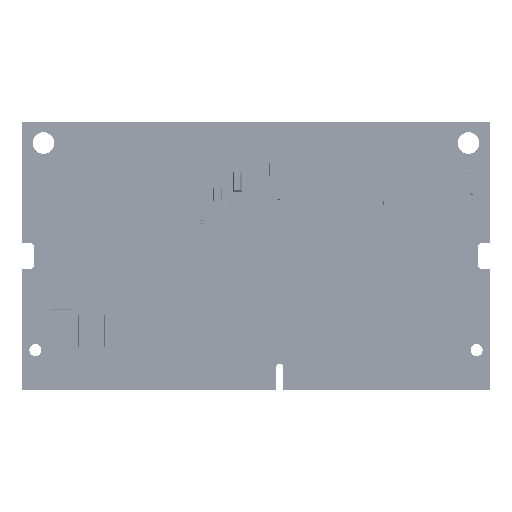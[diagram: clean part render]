
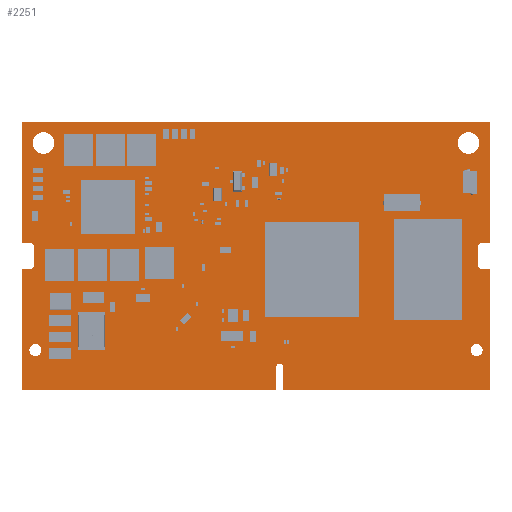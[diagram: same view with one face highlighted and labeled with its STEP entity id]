
A CAD part, top view. The second image highlights one B-rep face of the part: STEP entity #2251.
In plain terms, the highlighted planar face has unit normal (0, 0, 1).
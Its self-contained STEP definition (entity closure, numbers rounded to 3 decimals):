
#1328 = VERTEX_POINT('',#1329);
#1329 = CARTESIAN_POINT('',(69.6,40.,1.141));
#1335 = EDGE_CURVE('',#1328,#1336,#1338,.T.);
#1336 = VERTEX_POINT('',#1337);
#1337 = CARTESIAN_POINT('',(69.6,22.,1.141));
#1338 = LINE('',#1339,#1340);
#1339 = CARTESIAN_POINT('',(69.6,40.,1.141));
#1340 = VECTOR('',#1341,1.);
#1341 = DIRECTION('',(0.,-1.,0.));
#1366 = EDGE_CURVE('',#1336,#1367,#1369,.T.);
#1367 = VERTEX_POINT('',#1368);
#1368 = CARTESIAN_POINT('',(68.5,22.,1.141));
#1369 = LINE('',#1370,#1371);
#1370 = CARTESIAN_POINT('',(69.6,22.,1.141));
#1371 = VECTOR('',#1372,1.);
#1372 = DIRECTION('',(-1.,0.,0.));
#1397 = EDGE_CURVE('',#1367,#1398,#1400,.T.);
#1398 = VERTEX_POINT('',#1399);
#1399 = CARTESIAN_POINT('',(67.85,21.35,1.141));
#1400 = CIRCLE('',#1401,0.649);
#1401 = AXIS2_PLACEMENT_3D('',#1402,#1403,#1404);
#1402 = CARTESIAN_POINT('',(68.499,21.351,1.141));
#1403 = DIRECTION('',(0.,0.,1.));
#1404 = DIRECTION('',(0.002,1.,-0.));
#1430 = EDGE_CURVE('',#1398,#1431,#1433,.T.);
#1431 = VERTEX_POINT('',#1432);
#1432 = CARTESIAN_POINT('',(67.85,18.65,1.141));
#1433 = LINE('',#1434,#1435);
#1434 = CARTESIAN_POINT('',(67.85,21.35,1.141));
#1435 = VECTOR('',#1436,1.);
#1436 = DIRECTION('',(0.,-1.,0.));
#1461 = EDGE_CURVE('',#1431,#1462,#1464,.T.);
#1462 = VERTEX_POINT('',#1463);
#1463 = CARTESIAN_POINT('',(68.5,18.,1.141));
#1464 = CIRCLE('',#1465,0.649);
#1465 = AXIS2_PLACEMENT_3D('',#1466,#1467,#1468);
#1466 = CARTESIAN_POINT('',(68.499,18.649,1.141));
#1467 = DIRECTION('',(0.,0.,1.));
#1468 = DIRECTION('',(-1.,0.002,0.));
#1494 = EDGE_CURVE('',#1462,#1495,#1497,.T.);
#1495 = VERTEX_POINT('',#1496);
#1496 = CARTESIAN_POINT('',(69.6,18.,1.141));
#1497 = LINE('',#1498,#1499);
#1498 = CARTESIAN_POINT('',(68.5,18.,1.141));
#1499 = VECTOR('',#1500,1.);
#1500 = DIRECTION('',(1.,0.,0.));
#1525 = EDGE_CURVE('',#1495,#1526,#1528,.T.);
#1526 = VERTEX_POINT('',#1527);
#1527 = CARTESIAN_POINT('',(69.6,0.186,1.141));
#1528 = LINE('',#1529,#1530);
#1529 = CARTESIAN_POINT('',(69.6,18.,1.141));
#1530 = VECTOR('',#1531,1.);
#1531 = DIRECTION('',(0.,-1.,0.));
#1556 = EDGE_CURVE('',#1526,#1557,#1559,.T.);
#1557 = VERTEX_POINT('',#1558);
#1558 = CARTESIAN_POINT('',(69.414,0.,1.141));
#1559 = LINE('',#1560,#1561);
#1560 = CARTESIAN_POINT('',(69.6,0.186,1.141));
#1561 = VECTOR('',#1562,1.);
#1562 = DIRECTION('',(-0.707,-0.707,0.));
#1587 = EDGE_CURVE('',#1557,#1588,#1590,.T.);
#1588 = VERTEX_POINT('',#1589);
#1589 = CARTESIAN_POINT('',(38.986,0.,1.141));
#1590 = LINE('',#1591,#1592);
#1591 = CARTESIAN_POINT('',(69.414,0.,1.141));
#1592 = VECTOR('',#1593,1.);
#1593 = DIRECTION('',(-1.,0.,0.));
#1618 = EDGE_CURVE('',#1588,#1619,#1621,.T.);
#1619 = VERTEX_POINT('',#1620);
#1620 = CARTESIAN_POINT('',(38.8,0.186,1.141));
#1621 = LINE('',#1622,#1623);
#1622 = CARTESIAN_POINT('',(38.986,0.,1.141));
#1623 = VECTOR('',#1624,1.);
#1624 = DIRECTION('',(-0.707,0.707,0.));
#1649 = EDGE_CURVE('',#1619,#1650,#1652,.T.);
#1650 = VERTEX_POINT('',#1651);
#1651 = CARTESIAN_POINT('',(38.8,3.5,1.141));
#1652 = LINE('',#1653,#1654);
#1653 = CARTESIAN_POINT('',(38.8,0.186,1.141));
#1654 = VECTOR('',#1655,1.);
#1655 = DIRECTION('',(0.,1.,0.));
#1680 = EDGE_CURVE('',#1650,#1681,#1683,.T.);
#1681 = VERTEX_POINT('',#1682);
#1682 = CARTESIAN_POINT('',(37.8,3.5,1.141));
#1683 = CIRCLE('',#1684,0.5);
#1684 = AXIS2_PLACEMENT_3D('',#1685,#1686,#1687);
#1685 = CARTESIAN_POINT('',(38.3,3.5,1.141));
#1686 = DIRECTION('',(0.,0.,1.));
#1687 = DIRECTION('',(1.,0.,-0.));
#1713 = EDGE_CURVE('',#1681,#1714,#1716,.T.);
#1714 = VERTEX_POINT('',#1715);
#1715 = CARTESIAN_POINT('',(37.8,0.186,1.141));
#1716 = LINE('',#1717,#1718);
#1717 = CARTESIAN_POINT('',(37.8,3.5,1.141));
#1718 = VECTOR('',#1719,1.);
#1719 = DIRECTION('',(0.,-1.,0.));
#1744 = EDGE_CURVE('',#1714,#1745,#1747,.T.);
#1745 = VERTEX_POINT('',#1746);
#1746 = CARTESIAN_POINT('',(37.614,0.,1.141));
#1747 = LINE('',#1748,#1749);
#1748 = CARTESIAN_POINT('',(37.8,0.186,1.141));
#1749 = VECTOR('',#1750,1.);
#1750 = DIRECTION('',(-0.707,-0.707,0.));
#1775 = EDGE_CURVE('',#1745,#1776,#1778,.T.);
#1776 = VERTEX_POINT('',#1777);
#1777 = CARTESIAN_POINT('',(0.186,0.,1.141));
#1778 = LINE('',#1779,#1780);
#1779 = CARTESIAN_POINT('',(37.614,0.,1.141));
#1780 = VECTOR('',#1781,1.);
#1781 = DIRECTION('',(-1.,0.,0.));
#1806 = EDGE_CURVE('',#1776,#1807,#1809,.T.);
#1807 = VERTEX_POINT('',#1808);
#1808 = CARTESIAN_POINT('',(0.,0.186,1.141));
#1809 = LINE('',#1810,#1811);
#1810 = CARTESIAN_POINT('',(0.186,0.,1.141));
#1811 = VECTOR('',#1812,1.);
#1812 = DIRECTION('',(-0.707,0.707,0.));
#1837 = EDGE_CURVE('',#1807,#1838,#1840,.T.);
#1838 = VERTEX_POINT('',#1839);
#1839 = CARTESIAN_POINT('',(0.,18.,1.141));
#1840 = LINE('',#1841,#1842);
#1841 = CARTESIAN_POINT('',(0.,0.186,1.141));
#1842 = VECTOR('',#1843,1.);
#1843 = DIRECTION('',(0.,1.,0.));
#1868 = EDGE_CURVE('',#1838,#1869,#1871,.T.);
#1869 = VERTEX_POINT('',#1870);
#1870 = CARTESIAN_POINT('',(1.1,18.,1.141));
#1871 = LINE('',#1872,#1873);
#1872 = CARTESIAN_POINT('',(0.,18.,1.141));
#1873 = VECTOR('',#1874,1.);
#1874 = DIRECTION('',(1.,0.,0.));
#1899 = EDGE_CURVE('',#1869,#1900,#1902,.T.);
#1900 = VERTEX_POINT('',#1901);
#1901 = CARTESIAN_POINT('',(1.75,18.65,1.141));
#1902 = CIRCLE('',#1903,0.649);
#1903 = AXIS2_PLACEMENT_3D('',#1904,#1905,#1906);
#1904 = CARTESIAN_POINT('',(1.101,18.649,1.141));
#1905 = DIRECTION('',(0.,0.,1.));
#1906 = DIRECTION('',(-0.002,-1.,0.));
#1932 = EDGE_CURVE('',#1900,#1933,#1935,.T.);
#1933 = VERTEX_POINT('',#1934);
#1934 = CARTESIAN_POINT('',(1.75,21.35,1.141));
#1935 = LINE('',#1936,#1937);
#1936 = CARTESIAN_POINT('',(1.75,18.65,1.141));
#1937 = VECTOR('',#1938,1.);
#1938 = DIRECTION('',(0.,1.,0.));
#1963 = EDGE_CURVE('',#1933,#1964,#1966,.T.);
#1964 = VERTEX_POINT('',#1965);
#1965 = CARTESIAN_POINT('',(1.1,22.,1.141));
#1966 = CIRCLE('',#1967,0.649);
#1967 = AXIS2_PLACEMENT_3D('',#1968,#1969,#1970);
#1968 = CARTESIAN_POINT('',(1.101,21.351,1.141));
#1969 = DIRECTION('',(0.,0.,1.));
#1970 = DIRECTION('',(1.,-0.002,0.));
#1996 = EDGE_CURVE('',#1964,#1997,#1999,.T.);
#1997 = VERTEX_POINT('',#1998);
#1998 = CARTESIAN_POINT('',(0.,22.,1.141));
#1999 = LINE('',#2000,#2001);
#2000 = CARTESIAN_POINT('',(1.1,22.,1.141));
#2001 = VECTOR('',#2002,1.);
#2002 = DIRECTION('',(-1.,0.,0.));
#2027 = EDGE_CURVE('',#1997,#2028,#2030,.T.);
#2028 = VERTEX_POINT('',#2029);
#2029 = CARTESIAN_POINT('',(0.,40.,1.141));
#2030 = LINE('',#2031,#2032);
#2031 = CARTESIAN_POINT('',(0.,22.,1.141));
#2032 = VECTOR('',#2033,1.);
#2033 = DIRECTION('',(0.,1.,0.));
#2058 = EDGE_CURVE('',#2028,#1328,#2059,.T.);
#2059 = LINE('',#2060,#2061);
#2060 = CARTESIAN_POINT('',(0.,40.,1.141));
#2061 = VECTOR('',#2062,1.);
#2062 = DIRECTION('',(1.,0.,0.));
#2082 = VERTEX_POINT('',#2083);
#2083 = CARTESIAN_POINT('',(2.9,6.,1.141));
#2089 = EDGE_CURVE('',#2082,#2082,#2090,.T.);
#2090 = CIRCLE('',#2091,0.9);
#2091 = AXIS2_PLACEMENT_3D('',#2092,#2093,#2094);
#2092 = CARTESIAN_POINT('',(2.,6.,1.141));
#2093 = DIRECTION('',(0.,0.,1.));
#2094 = DIRECTION('',(1.,0.,-0.));
#2115 = VERTEX_POINT('',#2116);
#2116 = CARTESIAN_POINT('',(4.8,36.8,1.141));
#2122 = EDGE_CURVE('',#2115,#2115,#2123,.T.);
#2123 = CIRCLE('',#2124,1.6);
#2124 = AXIS2_PLACEMENT_3D('',#2125,#2126,#2127);
#2125 = CARTESIAN_POINT('',(3.2,36.8,1.141));
#2126 = DIRECTION('',(0.,0.,1.));
#2127 = DIRECTION('',(1.,0.,-0.));
#2148 = VERTEX_POINT('',#2149);
#2149 = CARTESIAN_POINT('',(68.5,6.,1.141));
#2155 = EDGE_CURVE('',#2148,#2148,#2156,.T.);
#2156 = CIRCLE('',#2157,0.9);
#2157 = AXIS2_PLACEMENT_3D('',#2158,#2159,#2160);
#2158 = CARTESIAN_POINT('',(67.6,6.,1.141));
#2159 = DIRECTION('',(0.,0.,1.));
#2160 = DIRECTION('',(1.,0.,-0.));
#2181 = VERTEX_POINT('',#2182);
#2182 = CARTESIAN_POINT('',(68.,36.8,1.141));
#2188 = EDGE_CURVE('',#2181,#2181,#2189,.T.);
#2189 = CIRCLE('',#2190,1.6);
#2190 = AXIS2_PLACEMENT_3D('',#2191,#2192,#2193);
#2191 = CARTESIAN_POINT('',(66.4,36.8,1.141));
#2192 = DIRECTION('',(0.,0.,1.));
#2193 = DIRECTION('',(1.,0.,-0.));
#2251 = ADVANCED_FACE('',(#2252,#2278,#2281,#2284,#2287),#2290,.F.);
#2252 = FACE_BOUND('',#2253,.F.);
#2253 = EDGE_LOOP('',(#2254,#2255,#2256,#2257,#2258,#2259,#2260,#2261,
    #2262,#2263,#2264,#2265,#2266,#2267,#2268,#2269,#2270,#2271,#2272,
    #2273,#2274,#2275,#2276,#2277));
#2254 = ORIENTED_EDGE('',*,*,#1335,.T.);
#2255 = ORIENTED_EDGE('',*,*,#1366,.T.);
#2256 = ORIENTED_EDGE('',*,*,#1397,.T.);
#2257 = ORIENTED_EDGE('',*,*,#1430,.T.);
#2258 = ORIENTED_EDGE('',*,*,#1461,.T.);
#2259 = ORIENTED_EDGE('',*,*,#1494,.T.);
#2260 = ORIENTED_EDGE('',*,*,#1525,.T.);
#2261 = ORIENTED_EDGE('',*,*,#1556,.T.);
#2262 = ORIENTED_EDGE('',*,*,#1587,.T.);
#2263 = ORIENTED_EDGE('',*,*,#1618,.T.);
#2264 = ORIENTED_EDGE('',*,*,#1649,.T.);
#2265 = ORIENTED_EDGE('',*,*,#1680,.T.);
#2266 = ORIENTED_EDGE('',*,*,#1713,.T.);
#2267 = ORIENTED_EDGE('',*,*,#1744,.T.);
#2268 = ORIENTED_EDGE('',*,*,#1775,.T.);
#2269 = ORIENTED_EDGE('',*,*,#1806,.T.);
#2270 = ORIENTED_EDGE('',*,*,#1837,.T.);
#2271 = ORIENTED_EDGE('',*,*,#1868,.T.);
#2272 = ORIENTED_EDGE('',*,*,#1899,.T.);
#2273 = ORIENTED_EDGE('',*,*,#1932,.T.);
#2274 = ORIENTED_EDGE('',*,*,#1963,.T.);
#2275 = ORIENTED_EDGE('',*,*,#1996,.T.);
#2276 = ORIENTED_EDGE('',*,*,#2027,.T.);
#2277 = ORIENTED_EDGE('',*,*,#2058,.T.);
#2278 = FACE_BOUND('',#2279,.T.);
#2279 = EDGE_LOOP('',(#2280));
#2280 = ORIENTED_EDGE('',*,*,#2089,.T.);
#2281 = FACE_BOUND('',#2282,.T.);
#2282 = EDGE_LOOP('',(#2283));
#2283 = ORIENTED_EDGE('',*,*,#2122,.T.);
#2284 = FACE_BOUND('',#2285,.T.);
#2285 = EDGE_LOOP('',(#2286));
#2286 = ORIENTED_EDGE('',*,*,#2155,.T.);
#2287 = FACE_BOUND('',#2288,.T.);
#2288 = EDGE_LOOP('',(#2289));
#2289 = ORIENTED_EDGE('',*,*,#2188,.T.);
#2290 = PLANE('',#2291);
#2291 = AXIS2_PLACEMENT_3D('',#2292,#2293,#2294);
#2292 = CARTESIAN_POINT('',(34.91,19.469,1.141));
#2293 = DIRECTION('',(-0.,-0.,-1.));
#2294 = DIRECTION('',(-1.,0.,0.));
